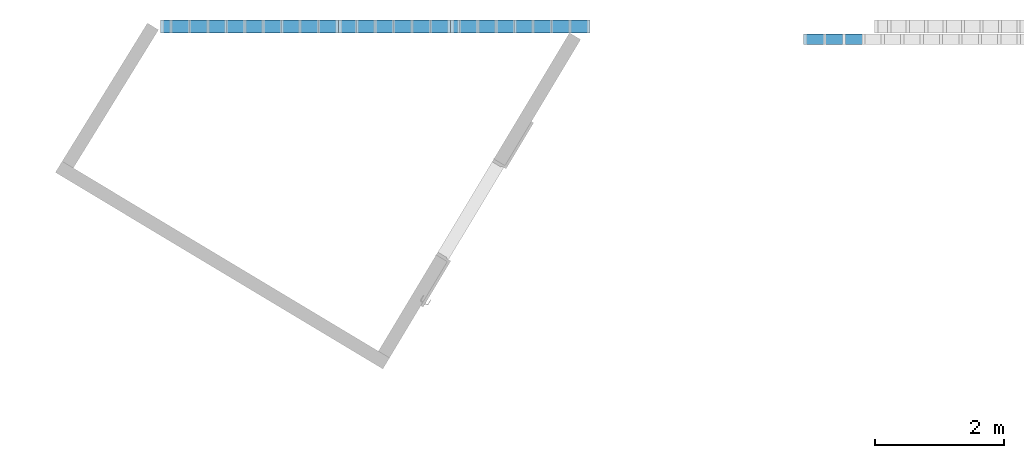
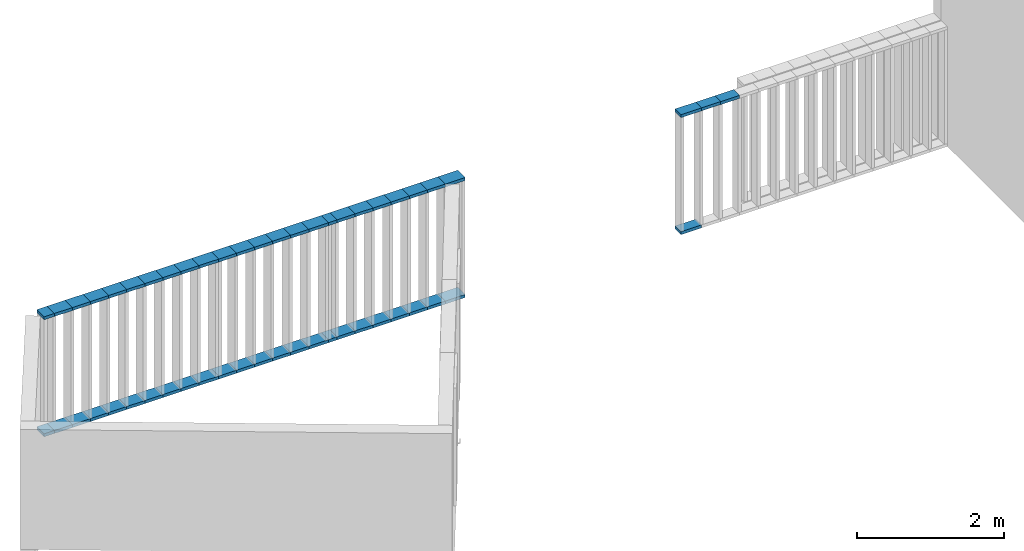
# One storey, part 36 of 240: 52 members, 4 elements without a shape of their own.
"""IFC2X3 building model written with IfcOpenShell, lengths in centimetres."""

from ifc_helpers import new_model, entity, si_unit, converted_unit, derived_unit, direction, frame, origin, origin_2d_with_axis, place, context, subcontext, project, spatial, rectangle, extrude, source, transform, mapped, material, type_object, type_shapes, element, aggregate, save


model = new_model("IFC2X3")

# Units and contexts
model_context = context("Model", 3, precision=0.001, world=origin(), true_north=direction((6.12303176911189e-17, 1.0)))
body_context = subcontext(model_context, "Body", "Model", "MODEL_VIEW")
ifc_project = project(units=[si_unit("LENGTHUNIT", "METRE", prefix="CENTI"), si_unit("AREAUNIT", "SQUARE_METRE"), si_unit("VOLUMEUNIT", "CUBIC_METRE"), converted_unit("PLANEANGLEUNIT", "DEGREE", entity("IfcRatioMeasure", 0.0174532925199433), si_unit("PLANEANGLEUNIT", "RADIAN"), dimensions=[0, 0, 0, 0, 0, 0, 0]), si_unit("MASSUNIT", "GRAM", prefix="KILO"), derived_unit("MASSDENSITYUNIT", [(si_unit("MASSUNIT", "GRAM", prefix="KILO"), 1), (si_unit("LENGTHUNIT", "METRE"), -3)]), si_unit("TIMEUNIT", "SECOND"), si_unit("FREQUENCYUNIT", "HERTZ"), si_unit("THERMODYNAMICTEMPERATUREUNIT", "DEGREE_CELSIUS"), derived_unit("THERMALTRANSMITTANCEUNIT", [(si_unit("MASSUNIT", "GRAM", prefix="KILO"), 1), (si_unit("THERMODYNAMICTEMPERATUREUNIT", "KELVIN"), -1), (si_unit("TIMEUNIT", "SECOND"), -3)]), derived_unit("VOLUMETRICFLOWRATEUNIT", [(si_unit("LENGTHUNIT", "METRE"), 3), (si_unit("TIMEUNIT", "SECOND"), -1)]), si_unit("ELECTRICCURRENTUNIT", "AMPERE"), si_unit("ELECTRICVOLTAGEUNIT", "VOLT"), si_unit("POWERUNIT", "WATT"), si_unit("FORCEUNIT", "NEWTON", prefix="KILO"), si_unit("ILLUMINANCEUNIT", "LUX"), si_unit("LUMINOUSFLUXUNIT", "LUMEN"), si_unit("LUMINOUSINTENSITYUNIT", "CANDELA"), derived_unit("USERDEFINED", [(si_unit("MASSUNIT", "GRAM", prefix="KILO"), -1), (si_unit("LENGTHUNIT", "METRE"), -2), (si_unit("TIMEUNIT", "SECOND"), 3), (si_unit("LUMINOUSFLUXUNIT", "LUMEN"), 1)]), derived_unit("LINEARVELOCITYUNIT", [(si_unit("LENGTHUNIT", "METRE"), 1), (si_unit("TIMEUNIT", "SECOND"), -1)]), si_unit("PRESSUREUNIT", "PASCAL"), derived_unit("USERDEFINED", [(si_unit("LENGTHUNIT", "METRE"), -2), (si_unit("MASSUNIT", "GRAM", prefix="KILO"), 1), (si_unit("TIMEUNIT", "SECOND"), -2)])], contexts=[model_context])

# Site, building, storey
site_placement = place(None, frame((-2781.94577612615, 7442.24238424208, 0.0)))
site = spatial("IfcSite", under=ifc_project, at=site_placement, Name="Default", CompositionType="ELEMENT")
building_placement = place(site_placement, origin())
building = spatial("IfcBuilding", under=site, at=building_placement, CompositionType="ELEMENT")
storey_placement = place(building_placement, origin())
storey = spatial("IfcBuildingStorey", under=building, at=storey_placement, Name="N00 - COO", CompositionType="ELEMENT", Elevation=0.0)

# Curtain wall, member
curtain_wall_type_1 = type_object("IfcCurtainWallType", Name="Mur-SR", PredefinedType="NOTDEFINED")
curtain_wall_1_placement = place(storey_placement, origin())
curtain_wall_1 = element("IfcCurtainWall", 1, at=curtain_wall_1_placement, inside=storey, type_object=curtain_wall_type_1, Name="Mur-SR", ObjectType="Mur-SR")
ifc_material = material(Name="Aluminium")
member_type_1 = type_object("IfcMemberType", Name="Epine nord (200x50 mm)", PredefinedType="MEMBER")
shared_shape_1 = source(origin(), body_context, "Body", "SweptSolid", [
    extrude(rectangle(XDim=20.0, YDim=5.0, at=origin_2d_with_axis()), frame((-2.5, 0.0, -31.0), z_axis=(0.0, 0.0, 1.0), x_axis=(0.0, -1.0, 0.0)), (0.0, 0.0, 1.0), 31.0000000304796),
])
type_shapes(member_type_1, [shared_shape_1])
member_1_placement = place(storey_placement, frame((-12011.5781137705, 40.0, 200.0), z_axis=(-1.0, 0.0, 0.0), x_axis=(0.0, 0.0, 1.0)))
member_1 = element("IfcMember", 2, at=member_1_placement, type_object=member_type_1, material=ifc_material, Name="Meneau rectangulaire:Epine nord (200x50 mm)", ObjectType="Meneau rectangulaire:Epine nord (200x50 mm)", context=body_context, shape_type="MappedRepresentation", body=[
    mapped(shared_shape_1, transform((0.0, 0.0, 0.0), scale=1.0)),
])

curtain_wall_2_placement = place(storey_placement, origin())
curtain_wall_2 = element("IfcCurtainWall", 3, at=curtain_wall_2_placement, inside=storey, type_object=curtain_wall_type_1, Name="Mur-SR", ObjectType="Mur-SR")
member_2_placement = place(storey_placement, frame((-12400.0781140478, 40.0, 200.0), z_axis=(-1.0, 0.0, 0.0), x_axis=(0.0, 0.0, 1.0)))
member_2 = element("IfcMember", 4, at=member_2_placement, type_object=member_type_1, material=ifc_material, Name="Meneau rectangulaire:Epine nord (200x50 mm)", ObjectType="Meneau rectangulaire:Epine nord (200x50 mm)", context=body_context, shape_type="MappedRepresentation", body=[
    mapped(shared_shape_1, transform((0.0, 0.0, 0.0), scale=1.0)),
])

curtain_wall_3_placement = place(storey_placement, origin())
curtain_wall_3 = element("IfcCurtainWall", 5, at=curtain_wall_3_placement, inside=storey, type_object=curtain_wall_type_1, Name="Mur-SR", ObjectType="Mur-SR")
member_3_placement = place(storey_placement, frame((-12227.0781140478, 40.0, 200.0), z_axis=(-1.0, 0.0, 0.0), x_axis=(0.0, 0.0, 1.0)))
member_3 = element("IfcMember", 6, at=member_3_placement, type_object=member_type_1, material=ifc_material, Name="Meneau rectangulaire:Epine nord (200x50 mm)", ObjectType="Meneau rectangulaire:Epine nord (200x50 mm)", context=body_context, shape_type="MappedRepresentation", body=[
    mapped(shared_shape_1, transform((0.0, 0.0, 0.0), scale=1.0)),
])

# Member
member_type_2 = type_object("IfcMemberType", Name="Epine nord (200x50 mm)", PredefinedType="MEMBER")
shared_shape_2 = source(origin(), body_context, "Body", "SweptSolid", [
    extrude(rectangle(XDim=20.0, YDim=5.0, at=origin_2d_with_axis()), frame((-2.5, 0.0, -28.5000000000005), z_axis=(0.0, 0.0, 1.0), x_axis=(0.0, -1.0, 0.0)), (0.0, 0.0, 1.0), 28.5000000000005),
])
type_shapes(member_type_2, [shared_shape_2])
member_4_placement = place(storey_placement, frame((-12040.0781137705, 40.0, 200.0), z_axis=(-1.0, 0.0, 0.0), x_axis=(0.0, 0.0, 1.0)))
member_4 = element("IfcMember", 7, at=member_4_placement, type_object=member_type_2, material=ifc_material, Name="Meneau rectangulaire:Epine nord (200x50 mm)", ObjectType="Meneau rectangulaire:Epine nord (200x50 mm)", context=body_context, shape_type="MappedRepresentation", body=[
    mapped(shared_shape_2, transform((0.0, 0.0, 0.0), scale=1.0)),
])

member_5_placement = place(storey_placement, frame((-12068.5781137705, 40.0, 200.0), z_axis=(-1.0, 0.0, 0.0), x_axis=(0.0, 0.0, 1.0)))
member_5 = element("IfcMember", 8, at=member_5_placement, type_object=member_type_2, material=ifc_material, Name="Meneau rectangulaire:Epine nord (200x50 mm)", ObjectType="Meneau rectangulaire:Epine nord (200x50 mm)", context=body_context, shape_type="MappedRepresentation", body=[
    mapped(shared_shape_2, transform((0.0, 0.0, 0.0), scale=1.0)),
])

member_6_placement = place(storey_placement, frame((-12097.0781137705, 40.0, 200.0), z_axis=(-1.0, 0.0, 0.0), x_axis=(0.0, 0.0, 1.0)))
member_6 = element("IfcMember", 9, at=member_6_placement, type_object=member_type_2, material=ifc_material, Name="Meneau rectangulaire:Epine nord (200x50 mm)", ObjectType="Meneau rectangulaire:Epine nord (200x50 mm)", context=body_context, shape_type="MappedRepresentation", body=[
    mapped(shared_shape_2, transform((0.0, 0.0, 0.0), scale=1.0)),
])

member_7_placement = place(storey_placement, frame((-12125.5781137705, 40.0, 200.0), z_axis=(-1.0, 0.0, 0.0), x_axis=(0.0, 0.0, 1.0)))
member_7 = element("IfcMember", 10, at=member_7_placement, type_object=member_type_2, material=ifc_material, Name="Meneau rectangulaire:Epine nord (200x50 mm)", ObjectType="Meneau rectangulaire:Epine nord (200x50 mm)", context=body_context, shape_type="MappedRepresentation", body=[
    mapped(shared_shape_2, transform((0.0, 0.0, 0.0), scale=1.0)),
])

member_8_placement = place(storey_placement, frame((-12154.0781137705, 40.0, 200.0), z_axis=(-1.0, 0.0, 0.0), x_axis=(0.0, 0.0, 1.0)))
member_8 = element("IfcMember", 11, at=member_8_placement, type_object=member_type_2, material=ifc_material, Name="Meneau rectangulaire:Epine nord (200x50 mm)", ObjectType="Meneau rectangulaire:Epine nord (200x50 mm)", context=body_context, shape_type="MappedRepresentation", body=[
    mapped(shared_shape_2, transform((0.0, 0.0, 0.0), scale=1.0)),
])

member_9_placement = place(storey_placement, frame((-12182.5781137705, 40.0, 200.0), z_axis=(-1.0, 0.0, 0.0), x_axis=(0.0, 0.0, 1.0)))
member_9 = element("IfcMember", 12, at=member_9_placement, type_object=member_type_2, material=ifc_material, Name="Meneau rectangulaire:Epine nord (200x50 mm)", ObjectType="Meneau rectangulaire:Epine nord (200x50 mm)", context=body_context, shape_type="MappedRepresentation", body=[
    mapped(shared_shape_2, transform((0.0, 0.0, 0.0), scale=1.0)),
])

member_10_placement = place(storey_placement, frame((-12428.5781140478, 40.0, 200.0), z_axis=(-1.0, 0.0, 0.0), x_axis=(0.0, 0.0, 1.0)))
member_10 = element("IfcMember", 13, at=member_10_placement, type_object=member_type_2, material=ifc_material, Name="Meneau rectangulaire:Epine nord (200x50 mm)", ObjectType="Meneau rectangulaire:Epine nord (200x50 mm)", context=body_context, shape_type="MappedRepresentation", body=[
    mapped(shared_shape_2, transform((0.0, 0.0, 0.0), scale=1.0)),
])

member_11_placement = place(storey_placement, frame((-12457.0781140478, 40.0, 200.0), z_axis=(-1.0, 0.0, 0.0), x_axis=(0.0, 0.0, 1.0)))
member_11 = element("IfcMember", 14, at=member_11_placement, type_object=member_type_2, material=ifc_material, Name="Meneau rectangulaire:Epine nord (200x50 mm)", ObjectType="Meneau rectangulaire:Epine nord (200x50 mm)", context=body_context, shape_type="MappedRepresentation", body=[
    mapped(shared_shape_2, transform((0.0, 0.0, 0.0), scale=1.0)),
])

member_12_placement = place(storey_placement, frame((-12485.5781140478, 40.0, 200.0), z_axis=(-1.0, 0.0, 0.0), x_axis=(0.0, 0.0, 1.0)))
member_12 = element("IfcMember", 15, at=member_12_placement, type_object=member_type_2, material=ifc_material, Name="Meneau rectangulaire:Epine nord (200x50 mm)", ObjectType="Meneau rectangulaire:Epine nord (200x50 mm)", context=body_context, shape_type="MappedRepresentation", body=[
    mapped(shared_shape_2, transform((0.0, 0.0, 0.0), scale=1.0)),
])

member_13_placement = place(storey_placement, frame((-12514.0781140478, 40.0, 200.0), z_axis=(-1.0, 0.0, 0.0), x_axis=(0.0, 0.0, 1.0)))
member_13 = element("IfcMember", 16, at=member_13_placement, type_object=member_type_2, material=ifc_material, Name="Meneau rectangulaire:Epine nord (200x50 mm)", ObjectType="Meneau rectangulaire:Epine nord (200x50 mm)", context=body_context, shape_type="MappedRepresentation", body=[
    mapped(shared_shape_2, transform((0.0, 0.0, 0.0), scale=1.0)),
])

member_14_placement = place(storey_placement, frame((-12542.5781140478, 40.0, 200.0), z_axis=(-1.0, 0.0, 0.0), x_axis=(0.0, 0.0, 1.0)))
member_14 = element("IfcMember", 17, at=member_14_placement, type_object=member_type_2, material=ifc_material, Name="Meneau rectangulaire:Epine nord (200x50 mm)", ObjectType="Meneau rectangulaire:Epine nord (200x50 mm)", context=body_context, shape_type="MappedRepresentation", body=[
    mapped(shared_shape_2, transform((0.0, 0.0, 0.0), scale=1.0)),
])

member_15_placement = place(storey_placement, frame((-12571.0781140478, 40.0, 200.0), z_axis=(-1.0, 0.0, 0.0), x_axis=(0.0, 0.0, 1.0)))
member_15 = element("IfcMember", 18, at=member_15_placement, type_object=member_type_2, material=ifc_material, Name="Meneau rectangulaire:Epine nord (200x50 mm)", ObjectType="Meneau rectangulaire:Epine nord (200x50 mm)", context=body_context, shape_type="MappedRepresentation", body=[
    mapped(shared_shape_2, transform((0.0, 0.0, 0.0), scale=1.0)),
])

member_16_placement = place(storey_placement, frame((-12599.5781140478, 40.0, 200.0), z_axis=(-1.0, 0.0, 0.0), x_axis=(0.0, 0.0, 1.0)))
member_16 = element("IfcMember", 19, at=member_16_placement, type_object=member_type_2, material=ifc_material, Name="Meneau rectangulaire:Epine nord (200x50 mm)", ObjectType="Meneau rectangulaire:Epine nord (200x50 mm)", context=body_context, shape_type="MappedRepresentation", body=[
    mapped(shared_shape_2, transform((0.0, 0.0, 0.0), scale=1.0)),
])

member_17_placement = place(storey_placement, frame((-12628.0781140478, 40.0, 200.0), z_axis=(-1.0, 0.0, 0.0), x_axis=(0.0, 0.0, 1.0)))
member_17 = element("IfcMember", 20, at=member_17_placement, type_object=member_type_2, material=ifc_material, Name="Meneau rectangulaire:Epine nord (200x50 mm)", ObjectType="Meneau rectangulaire:Epine nord (200x50 mm)", context=body_context, shape_type="MappedRepresentation", body=[
    mapped(shared_shape_2, transform((0.0, 0.0, 0.0), scale=1.0)),
])

member_18_placement = place(storey_placement, frame((-12255.5781140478, 40.0, 200.0), z_axis=(-1.0, 0.0, 0.0), x_axis=(0.0, 0.0, 1.0)))
member_18 = element("IfcMember", 21, at=member_18_placement, type_object=member_type_2, material=ifc_material, Name="Meneau rectangulaire:Epine nord (200x50 mm)", ObjectType="Meneau rectangulaire:Epine nord (200x50 mm)", context=body_context, shape_type="MappedRepresentation", body=[
    mapped(shared_shape_2, transform((0.0, 0.0, 0.0), scale=1.0)),
])

member_19_placement = place(storey_placement, frame((-12284.0781140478, 40.0, 200.0), z_axis=(-1.0, 0.0, 0.0), x_axis=(0.0, 0.0, 1.0)))
member_19 = element("IfcMember", 22, at=member_19_placement, type_object=member_type_2, material=ifc_material, Name="Meneau rectangulaire:Epine nord (200x50 mm)", ObjectType="Meneau rectangulaire:Epine nord (200x50 mm)", context=body_context, shape_type="MappedRepresentation", body=[
    mapped(shared_shape_2, transform((0.0, 0.0, 0.0), scale=1.0)),
])

member_20_placement = place(storey_placement, frame((-12312.5781140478, 40.0, 200.0), z_axis=(-1.0, 0.0, 0.0), x_axis=(0.0, 0.0, 1.0)))
member_20 = element("IfcMember", 23, at=member_20_placement, type_object=member_type_2, material=ifc_material, Name="Meneau rectangulaire:Epine nord (200x50 mm)", ObjectType="Meneau rectangulaire:Epine nord (200x50 mm)", context=body_context, shape_type="MappedRepresentation", body=[
    mapped(shared_shape_2, transform((0.0, 0.0, 0.0), scale=1.0)),
])

member_21_placement = place(storey_placement, frame((-12341.0781140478, 40.0, 200.0), z_axis=(-1.0, 0.0, 0.0), x_axis=(0.0, 0.0, 1.0)))
member_21 = element("IfcMember", 24, at=member_21_placement, type_object=member_type_2, material=ifc_material, Name="Meneau rectangulaire:Epine nord (200x50 mm)", ObjectType="Meneau rectangulaire:Epine nord (200x50 mm)", context=body_context, shape_type="MappedRepresentation", body=[
    mapped(shared_shape_2, transform((0.0, 0.0, 0.0), scale=1.0)),
])

member_type_3 = type_object("IfcMemberType", Name="Epine nord (200x50 mm)", PredefinedType="MEMBER")
shared_shape_3 = source(origin(), body_context, "Body", "SweptSolid", [
    extrude(rectangle(XDim=20.0, YDim=5.0, at=origin_2d_with_axis()), frame((-2.5, 0.0, -28.5000000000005), z_axis=(0.0, 0.0, 1.0), x_axis=(0.0, -1.0, 0.0)), (0.0, 0.0, 1.0), 28.5000000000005),
])
type_shapes(member_type_3, [shared_shape_3])
member_22_placement = place(storey_placement, frame((-12011.5781137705, 40.0, 0.0), z_axis=(1.0, 0.0, 0.0), x_axis=(0.0, 0.0, -1.0)))
member_22 = element("IfcMember", 25, at=member_22_placement, type_object=member_type_3, material=ifc_material, Name="Meneau rectangulaire:Epine nord (200x50 mm)", ObjectType="Meneau rectangulaire:Epine nord (200x50 mm)", context=body_context, shape_type="MappedRepresentation", body=[
    mapped(shared_shape_3, transform((0.0, 0.0, 0.0), scale=1.0)),
])

member_23_placement = place(storey_placement, frame((-12040.0781137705, 40.0, 0.0), z_axis=(1.0, 0.0, 0.0), x_axis=(0.0, 0.0, -1.0)))
member_23 = element("IfcMember", 26, at=member_23_placement, type_object=member_type_3, material=ifc_material, Name="Meneau rectangulaire:Epine nord (200x50 mm)", ObjectType="Meneau rectangulaire:Epine nord (200x50 mm)", context=body_context, shape_type="MappedRepresentation", body=[
    mapped(shared_shape_3, transform((0.0, 0.0, 0.0), scale=1.0)),
])

member_24_placement = place(storey_placement, frame((-12068.5781137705, 40.0, 0.0), z_axis=(1.0, 0.0, 0.0), x_axis=(0.0, 0.0, -1.0)))
member_24 = element("IfcMember", 27, at=member_24_placement, type_object=member_type_3, material=ifc_material, Name="Meneau rectangulaire:Epine nord (200x50 mm)", ObjectType="Meneau rectangulaire:Epine nord (200x50 mm)", context=body_context, shape_type="MappedRepresentation", body=[
    mapped(shared_shape_3, transform((0.0, 0.0, 0.0), scale=1.0)),
])

member_25_placement = place(storey_placement, frame((-12097.0781137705, 40.0, 0.0), z_axis=(1.0, 0.0, 0.0), x_axis=(0.0, 0.0, -1.0)))
member_25 = element("IfcMember", 28, at=member_25_placement, type_object=member_type_3, material=ifc_material, Name="Meneau rectangulaire:Epine nord (200x50 mm)", ObjectType="Meneau rectangulaire:Epine nord (200x50 mm)", context=body_context, shape_type="MappedRepresentation", body=[
    mapped(shared_shape_3, transform((0.0, 0.0, 0.0), scale=1.0)),
])

member_26_placement = place(storey_placement, frame((-12125.5781137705, 40.0, 0.0), z_axis=(1.0, 0.0, 0.0), x_axis=(0.0, 0.0, -1.0)))
member_26 = element("IfcMember", 29, at=member_26_placement, type_object=member_type_3, material=ifc_material, Name="Meneau rectangulaire:Epine nord (200x50 mm)", ObjectType="Meneau rectangulaire:Epine nord (200x50 mm)", context=body_context, shape_type="MappedRepresentation", body=[
    mapped(shared_shape_3, transform((0.0, 0.0, 0.0), scale=1.0)),
])

member_27_placement = place(storey_placement, frame((-12154.0781137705, 40.0, 0.0), z_axis=(1.0, 0.0, 0.0), x_axis=(0.0, 0.0, -1.0)))
member_27 = element("IfcMember", 30, at=member_27_placement, type_object=member_type_3, material=ifc_material, Name="Meneau rectangulaire:Epine nord (200x50 mm)", ObjectType="Meneau rectangulaire:Epine nord (200x50 mm)", context=body_context, shape_type="MappedRepresentation", body=[
    mapped(shared_shape_3, transform((0.0, 0.0, 0.0), scale=1.0)),
])

member_28_placement = place(storey_placement, frame((-12400.0781140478, 40.0, 0.0), z_axis=(1.0, 0.0, 0.0), x_axis=(0.0, 0.0, -1.0)))
member_28 = element("IfcMember", 31, at=member_28_placement, type_object=member_type_3, material=ifc_material, Name="Meneau rectangulaire:Epine nord (200x50 mm)", ObjectType="Meneau rectangulaire:Epine nord (200x50 mm)", context=body_context, shape_type="MappedRepresentation", body=[
    mapped(shared_shape_3, transform((0.0, 0.0, 0.0), scale=1.0)),
])

member_29_placement = place(storey_placement, frame((-12428.5781140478, 40.0, 0.0), z_axis=(1.0, 0.0, 0.0), x_axis=(0.0, 0.0, -1.0)))
member_29 = element("IfcMember", 32, at=member_29_placement, type_object=member_type_3, material=ifc_material, Name="Meneau rectangulaire:Epine nord (200x50 mm)", ObjectType="Meneau rectangulaire:Epine nord (200x50 mm)", context=body_context, shape_type="MappedRepresentation", body=[
    mapped(shared_shape_3, transform((0.0, 0.0, 0.0), scale=1.0)),
])

member_30_placement = place(storey_placement, frame((-12457.0781140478, 40.0, 0.0), z_axis=(1.0, 0.0, 0.0), x_axis=(0.0, 0.0, -1.0)))
member_30 = element("IfcMember", 33, at=member_30_placement, type_object=member_type_3, material=ifc_material, Name="Meneau rectangulaire:Epine nord (200x50 mm)", ObjectType="Meneau rectangulaire:Epine nord (200x50 mm)", context=body_context, shape_type="MappedRepresentation", body=[
    mapped(shared_shape_3, transform((0.0, 0.0, 0.0), scale=1.0)),
])

member_31_placement = place(storey_placement, frame((-12485.5781140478, 40.0, 0.0), z_axis=(1.0, 0.0, 0.0), x_axis=(0.0, 0.0, -1.0)))
member_31 = element("IfcMember", 34, at=member_31_placement, type_object=member_type_3, material=ifc_material, Name="Meneau rectangulaire:Epine nord (200x50 mm)", ObjectType="Meneau rectangulaire:Epine nord (200x50 mm)", context=body_context, shape_type="MappedRepresentation", body=[
    mapped(shared_shape_3, transform((0.0, 0.0, 0.0), scale=1.0)),
])

member_32_placement = place(storey_placement, frame((-12514.0781140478, 40.0, 0.0), z_axis=(1.0, 0.0, 0.0), x_axis=(0.0, 0.0, -1.0)))
member_32 = element("IfcMember", 35, at=member_32_placement, type_object=member_type_3, material=ifc_material, Name="Meneau rectangulaire:Epine nord (200x50 mm)", ObjectType="Meneau rectangulaire:Epine nord (200x50 mm)", context=body_context, shape_type="MappedRepresentation", body=[
    mapped(shared_shape_3, transform((0.0, 0.0, 0.0), scale=1.0)),
])

member_33_placement = place(storey_placement, frame((-12542.5781140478, 40.0, 0.0), z_axis=(1.0, 0.0, 0.0), x_axis=(0.0, 0.0, -1.0)))
member_33 = element("IfcMember", 36, at=member_33_placement, type_object=member_type_3, material=ifc_material, Name="Meneau rectangulaire:Epine nord (200x50 mm)", ObjectType="Meneau rectangulaire:Epine nord (200x50 mm)", context=body_context, shape_type="MappedRepresentation", body=[
    mapped(shared_shape_3, transform((0.0, 0.0, 0.0), scale=1.0)),
])

member_34_placement = place(storey_placement, frame((-12571.0781140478, 40.0, 0.0), z_axis=(1.0, 0.0, 0.0), x_axis=(0.0, 0.0, -1.0)))
member_34 = element("IfcMember", 37, at=member_34_placement, type_object=member_type_3, material=ifc_material, Name="Meneau rectangulaire:Epine nord (200x50 mm)", ObjectType="Meneau rectangulaire:Epine nord (200x50 mm)", context=body_context, shape_type="MappedRepresentation", body=[
    mapped(shared_shape_3, transform((0.0, 0.0, 0.0), scale=1.0)),
])

member_35_placement = place(storey_placement, frame((-12599.5781140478, 40.0, 0.0), z_axis=(1.0, 0.0, 0.0), x_axis=(0.0, 0.0, -1.0)))
member_35 = element("IfcMember", 38, at=member_35_placement, type_object=member_type_3, material=ifc_material, Name="Meneau rectangulaire:Epine nord (200x50 mm)", ObjectType="Meneau rectangulaire:Epine nord (200x50 mm)", context=body_context, shape_type="MappedRepresentation", body=[
    mapped(shared_shape_3, transform((0.0, 0.0, 0.0), scale=1.0)),
])

member_36_placement = place(storey_placement, frame((-12227.0781140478, 40.0, 0.0), z_axis=(1.0, 0.0, 0.0), x_axis=(0.0, 0.0, -1.0)))
member_36 = element("IfcMember", 39, at=member_36_placement, type_object=member_type_3, material=ifc_material, Name="Meneau rectangulaire:Epine nord (200x50 mm)", ObjectType="Meneau rectangulaire:Epine nord (200x50 mm)", context=body_context, shape_type="MappedRepresentation", body=[
    mapped(shared_shape_3, transform((0.0, 0.0, 0.0), scale=1.0)),
])

member_37_placement = place(storey_placement, frame((-12255.5781140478, 40.0, 0.0), z_axis=(1.0, 0.0, 0.0), x_axis=(0.0, 0.0, -1.0)))
member_37 = element("IfcMember", 40, at=member_37_placement, type_object=member_type_3, material=ifc_material, Name="Meneau rectangulaire:Epine nord (200x50 mm)", ObjectType="Meneau rectangulaire:Epine nord (200x50 mm)", context=body_context, shape_type="MappedRepresentation", body=[
    mapped(shared_shape_3, transform((0.0, 0.0, 0.0), scale=1.0)),
])

member_38_placement = place(storey_placement, frame((-12284.0781140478, 40.0, 0.0), z_axis=(1.0, 0.0, 0.0), x_axis=(0.0, 0.0, -1.0)))
member_38 = element("IfcMember", 41, at=member_38_placement, type_object=member_type_3, material=ifc_material, Name="Meneau rectangulaire:Epine nord (200x50 mm)", ObjectType="Meneau rectangulaire:Epine nord (200x50 mm)", context=body_context, shape_type="MappedRepresentation", body=[
    mapped(shared_shape_3, transform((0.0, 0.0, 0.0), scale=1.0)),
])

member_39_placement = place(storey_placement, frame((-12312.5781140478, 40.0, 0.0), z_axis=(1.0, 0.0, 0.0), x_axis=(0.0, 0.0, -1.0)))
member_39 = element("IfcMember", 42, at=member_39_placement, type_object=member_type_3, material=ifc_material, Name="Meneau rectangulaire:Epine nord (200x50 mm)", ObjectType="Meneau rectangulaire:Epine nord (200x50 mm)", context=body_context, shape_type="MappedRepresentation", body=[
    mapped(shared_shape_3, transform((0.0, 0.0, 0.0), scale=1.0)),
])

member_type_4 = type_object("IfcMemberType", Name="Epine nord (200x50 mm)", PredefinedType="MEMBER")
shared_shape_4 = source(origin(), body_context, "Body", "SweptSolid", [
    extrude(rectangle(XDim=20.0, YDim=5.0, at=origin_2d_with_axis()), frame((-2.5, 0.0, -31.0), z_axis=(0.0, 0.0, 1.0), x_axis=(0.0, -1.0, 0.0)), (0.0, 0.0, 1.0), 31.0000000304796),
])
type_shapes(member_type_4, [shared_shape_4])
member_40_placement = place(storey_placement, frame((-11980.57811374, 40.0, 0.0), z_axis=(1.0, 0.0, 0.0), x_axis=(0.0, 0.0, -1.0)))
member_40 = element("IfcMember", 43, at=member_40_placement, type_object=member_type_4, material=ifc_material, Name="Meneau rectangulaire:Epine nord (200x50 mm)", ObjectType="Meneau rectangulaire:Epine nord (200x50 mm)", context=body_context, shape_type="MappedRepresentation", body=[
    mapped(shared_shape_4, transform((0.0, 0.0, 0.0), scale=1.0)),
])

member_41_placement = place(storey_placement, frame((-12369.0781140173, 40.0, 0.0), z_axis=(1.0, 0.0, 0.0), x_axis=(0.0, 0.0, -1.0)))
member_41 = element("IfcMember", 44, at=member_41_placement, type_object=member_type_4, material=ifc_material, Name="Meneau rectangulaire:Epine nord (200x50 mm)", ObjectType="Meneau rectangulaire:Epine nord (200x50 mm)", context=body_context, shape_type="MappedRepresentation", body=[
    mapped(shared_shape_4, transform((0.0, 0.0, 0.0), scale=1.0)),
])

member_42_placement = place(storey_placement, frame((-12196.0781140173, 40.0, 0.0), z_axis=(1.0, 0.0, 0.0), x_axis=(0.0, 0.0, -1.0)))
member_42 = element("IfcMember", 45, at=member_42_placement, type_object=member_type_4, material=ifc_material, Name="Meneau rectangulaire:Epine nord (200x50 mm)", ObjectType="Meneau rectangulaire:Epine nord (200x50 mm)", context=body_context, shape_type="MappedRepresentation", body=[
    mapped(shared_shape_4, transform((0.0, 0.0, 0.0), scale=1.0)),
])

# Curtain wall, members
curtain_wall_type_2 = type_object("IfcCurtainWallType", Name="Mur-SR", PredefinedType="NOTDEFINED")
curtain_wall_4_placement = place(storey_placement, origin())
curtain_wall_4 = element("IfcCurtainWall", 46, at=curtain_wall_4_placement, inside=storey, type_object=curtain_wall_type_2, Name="Mur-SR", ObjectType="Mur-SR")
member_type_5 = type_object("IfcMemberType", Name="Epine nord (160x50 mm)", PredefinedType="MEMBER")
shared_shape_5 = source(origin(), body_context, "Body", "SweptSolid", [
    extrude(rectangle(XDim=16.0, YDim=5.0, at=origin_2d_with_axis()), frame((-2.5, 0.0, -32.5000000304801), z_axis=(0.0, 0.0, 1.0), x_axis=(0.0, -1.0, 0.0)), (0.0, 0.0, 1.0), 32.5000000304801),
])
type_shapes(member_type_5, [shared_shape_5])
member_43_placement = place(storey_placement, frame((-11618.1616968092, 20.0, 200.0), z_axis=(1.0, 0.0, 0.0), x_axis=(0.0, 0.0, 1.0)))
member_43 = element("IfcMember", 47, at=member_43_placement, type_object=member_type_5, material=ifc_material, Name="Meneau rectangulaire:Epine nord (160x50 mm)", ObjectType="Meneau rectangulaire:Epine nord (160x50 mm)", context=body_context, shape_type="MappedRepresentation", body=[
    mapped(shared_shape_5, transform((0.0, 0.0, 0.0), scale=1.0)),
])
member_type_6 = type_object("IfcMemberType", Name="Epine nord (160x50 mm)", PredefinedType="MEMBER")
shared_shape_6 = source(origin(), body_context, "Body", "SweptSolid", [
    extrude(rectangle(XDim=16.0, YDim=5.0, at=origin_2d_with_axis()), frame((-2.5, 0.0, -30.0), z_axis=(0.0, 0.0, 1.0), x_axis=(0.0, -1.0, 0.0)), (0.0, 0.0, 1.0), 30.0000000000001),
])
type_shapes(member_type_6, [shared_shape_6])
member_44_placement = place(storey_placement, frame((-11588.1616968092, 20.0, 200.0), z_axis=(1.0, 0.0, 0.0), x_axis=(0.0, 0.0, 1.0)))
member_44 = element("IfcMember", 48, at=member_44_placement, type_object=member_type_6, material=ifc_material, Name="Meneau rectangulaire:Epine nord (160x50 mm)", ObjectType="Meneau rectangulaire:Epine nord (160x50 mm)", context=body_context, shape_type="MappedRepresentation", body=[
    mapped(shared_shape_6, transform((0.0, 0.0, 0.0), scale=1.0)),
])
member_45_placement = place(storey_placement, frame((-11558.1616968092, 20.0, 200.0), z_axis=(1.0, 0.0, 0.0), x_axis=(0.0, 0.0, 1.0)))
member_45 = element("IfcMember", 49, at=member_45_placement, type_object=member_type_6, material=ifc_material, Name="Meneau rectangulaire:Epine nord (160x50 mm)", ObjectType="Meneau rectangulaire:Epine nord (160x50 mm)", context=body_context, shape_type="MappedRepresentation", body=[
    mapped(shared_shape_6, transform((0.0, 0.0, 0.0), scale=1.0)),
])
member_type_7 = type_object("IfcMemberType", Name="Epine nord (160x50 mm)", PredefinedType="MEMBER")
shared_shape_7 = source(origin(), body_context, "Body", "SweptSolid", [
    extrude(rectangle(XDim=16.0, YDim=5.0, at=origin_2d_with_axis()), frame((-2.5, 0.0, -32.50000003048), z_axis=(0.0, 0.0, 1.0), x_axis=(0.0, -1.0, 0.0)), (0.0, 0.0, 1.0), 32.5000000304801),
])
type_shapes(member_type_7, [shared_shape_7])
member_46_placement = place(storey_placement, frame((-11650.6616968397, 20.0, 0.0), z_axis=(-1.0, 0.0, 0.0), x_axis=(0.0, 0.0, -1.0)))
member_46 = element("IfcMember", 50, at=member_46_placement, type_object=member_type_7, material=ifc_material, Name="Meneau rectangulaire:Epine nord (160x50 mm)", ObjectType="Meneau rectangulaire:Epine nord (160x50 mm)", context=body_context, shape_type="MappedRepresentation", body=[
    mapped(shared_shape_7, transform((0.0, 0.0, 0.0), scale=1.0)),
])
aggregate(curtain_wall_4, [member_43, member_44, member_45, member_46])

# Member
member_type_8 = type_object("IfcMemberType", Name="Epine nord (200x50 mm)", PredefinedType="MEMBER")
shared_shape_8 = source(origin(), body_context, "Body", "SweptSolid", [
    extrude(rectangle(XDim=20.0, YDim=5.0, at=origin_2d_with_axis()), frame((-2.5, 0.0, -13.5000002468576), z_axis=(0.0, 0.0, 1.0), x_axis=(0.0, -1.0, 0.0)), (0.0, 0.0, 1.0), 13.5000002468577),
])
type_shapes(member_type_8, [shared_shape_8])
member_47_placement = place(storey_placement, frame((-12196.0781140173, 40.0, 200.0), z_axis=(-1.0, 0.0, 0.0), x_axis=(0.0, 0.0, 1.0)))
member_47 = element("IfcMember", 51, at=member_47_placement, type_object=member_type_8, material=ifc_material, Name="Meneau rectangulaire:Epine nord (200x50 mm)", ObjectType="Meneau rectangulaire:Epine nord (200x50 mm)", context=body_context, shape_type="MappedRepresentation", body=[
    mapped(shared_shape_8, transform((0.0, 0.0, 0.0), scale=1.0)),
])

member_type_9 = type_object("IfcMemberType", Name="Epine nord (200x50 mm)", PredefinedType="MEMBER")
shared_shape_9 = source(origin(), body_context, "Body", "SweptSolid", [
    extrude(rectangle(XDim=20.0, YDim=5.0, at=origin_2d_with_axis()), frame((-2.5, 0.0, -13.5000002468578), z_axis=(0.0, 0.0, 1.0), x_axis=(0.0, -1.0, 0.0)), (0.0, 0.0, 1.0), 13.5000002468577),
])
type_shapes(member_type_9, [shared_shape_9])
member_48_placement = place(storey_placement, frame((-12182.5781137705, 40.0, 0.0), z_axis=(1.0, 0.0, 0.0), x_axis=(0.0, 0.0, -1.0)))
member_48 = element("IfcMember", 52, at=member_48_placement, type_object=member_type_9, material=ifc_material, Name="Meneau rectangulaire:Epine nord (200x50 mm)", ObjectType="Meneau rectangulaire:Epine nord (200x50 mm)", context=body_context, shape_type="MappedRepresentation", body=[
    mapped(shared_shape_9, transform((0.0, 0.0, 0.0), scale=1.0)),
])

aggregate(curtain_wall_1, [member_1, member_4, member_5, member_6, member_7, member_8, member_40, member_22, member_23, member_24, member_25, member_26, member_27, member_47, member_48, member_9])

member_type_10 = type_object("IfcMemberType", Name="Epine nord (200x50 mm)", PredefinedType="MEMBER")
shared_shape_10 = source(origin(), body_context, "Body", "SweptSolid", [
    extrude(rectangle(XDim=20.0, YDim=5.0, at=origin_2d_with_axis()), frame((-2.5, 0.0, -16.0899210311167), z_axis=(0.0, 0.0, 1.0), x_axis=(0.0, -1.0, 0.0)), (0.0, 0.0, 1.0), 16.0899210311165),
])
type_shapes(member_type_10, [shared_shape_10])
member_49_placement = place(storey_placement, frame((-12628.0781140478, 40.0, 0.0), z_axis=(1.0, 0.0, 0.0), x_axis=(0.0, 0.0, -1.0)))
member_49 = element("IfcMember", 53, at=member_49_placement, type_object=member_type_10, material=ifc_material, Name="Meneau rectangulaire:Epine nord (200x50 mm)", ObjectType="Meneau rectangulaire:Epine nord (200x50 mm)", context=body_context, shape_type="MappedRepresentation", body=[
    mapped(shared_shape_10, transform((0.0, 0.0, 0.0), scale=1.0)),
])

member_type_11 = type_object("IfcMemberType", Name="Epine nord (200x50 mm)", PredefinedType="MEMBER")
shared_shape_11 = source(origin(), body_context, "Body", "SweptSolid", [
    extrude(rectangle(XDim=20.0, YDim=5.0, at=origin_2d_with_axis()), frame((-2.5, 0.0, -16.0899210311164), z_axis=(0.0, 0.0, 1.0), x_axis=(0.0, -1.0, 0.0)), (0.0, 0.0, 1.0), 16.0899210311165),
])
type_shapes(member_type_11, [shared_shape_11])
member_50_placement = place(storey_placement, frame((-12644.1680350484, 40.0, 200.0), z_axis=(-1.0, 0.0, 0.0), x_axis=(0.0, 0.0, 1.0)))
member_50 = element("IfcMember", 54, at=member_50_placement, type_object=member_type_11, material=ifc_material, Name="Meneau rectangulaire:Epine nord (200x50 mm)", ObjectType="Meneau rectangulaire:Epine nord (200x50 mm)", context=body_context, shape_type="MappedRepresentation", body=[
    mapped(shared_shape_11, transform((0.0, 0.0, 0.0), scale=1.0)),
])

aggregate(curtain_wall_2, [member_28, member_29, member_30, member_31, member_32, member_33, member_34, member_35, member_49, member_2, member_10, member_11, member_12, member_13, member_14, member_15, member_16, member_17, member_41, member_50])

member_type_12 = type_object("IfcMemberType", Name="Epine nord (200x50 mm)", PredefinedType="MEMBER")
shared_shape_12 = source(origin(), body_context, "Body", "SweptSolid", [
    extrude(rectangle(XDim=20.0, YDim=5.0, at=origin_2d_with_axis()), frame((-2.5, 0.0, -28.0), z_axis=(0.0, 0.0, 1.0), x_axis=(0.0, -1.0, 0.0)), (0.0, 0.0, 1.0), 27.9999999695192),
])
type_shapes(member_type_12, [shared_shape_12])
member_51_placement = place(storey_placement, frame((-12341.0781140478, 40.0, 0.0), z_axis=(1.0, 0.0, 0.0), x_axis=(0.0, 0.0, -1.0)))
member_51 = element("IfcMember", 55, at=member_51_placement, type_object=member_type_12, material=ifc_material, Name="Meneau rectangulaire:Epine nord (200x50 mm)", ObjectType="Meneau rectangulaire:Epine nord (200x50 mm)", context=body_context, shape_type="MappedRepresentation", body=[
    mapped(shared_shape_12, transform((0.0, 0.0, 0.0), scale=1.0)),
])

member_type_13 = type_object("IfcMemberType", Name="Epine nord (200x50 mm)", PredefinedType="MEMBER")
shared_shape_13 = source(origin(), body_context, "Body", "SweptSolid", [
    extrude(rectangle(XDim=20.0, YDim=5.0, at=origin_2d_with_axis()), frame((-2.5, 0.0, -28.0), z_axis=(0.0, 0.0, 1.0), x_axis=(0.0, -1.0, 0.0)), (0.0, 0.0, 1.0), 27.9999999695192),
])
type_shapes(member_type_13, [shared_shape_13])
member_52_placement = place(storey_placement, frame((-12369.0781140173, 40.0, 200.0), z_axis=(-1.0, 0.0, 0.0), x_axis=(0.0, 0.0, 1.0)))
member_52 = element("IfcMember", 56, at=member_52_placement, type_object=member_type_13, material=ifc_material, Name="Meneau rectangulaire:Epine nord (200x50 mm)", ObjectType="Meneau rectangulaire:Epine nord (200x50 mm)", context=body_context, shape_type="MappedRepresentation", body=[
    mapped(shared_shape_13, transform((0.0, 0.0, 0.0), scale=1.0)),
])

aggregate(curtain_wall_3, [member_3, member_18, member_19, member_20, member_21, member_42, member_36, member_37, member_38, member_39, member_51, member_52])

save(model, "model.ifc")
